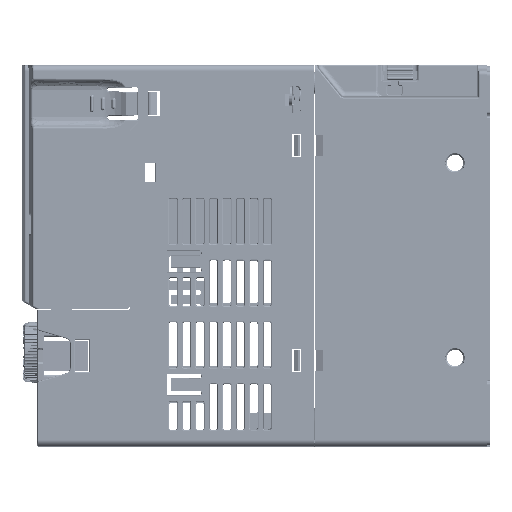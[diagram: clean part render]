
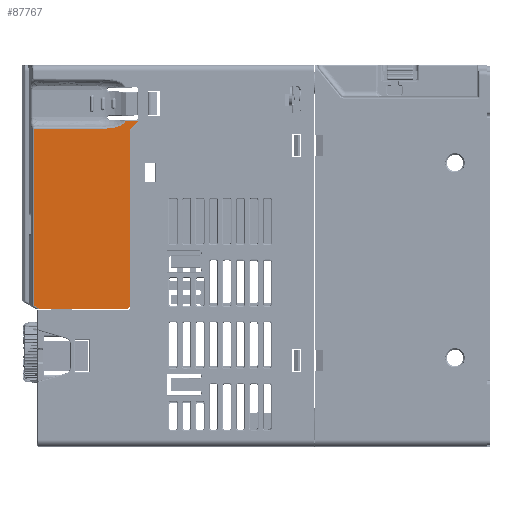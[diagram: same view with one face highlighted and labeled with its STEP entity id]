
A CAD part, left-side view. The second image highlights one B-rep face of the part: STEP entity #87767.
In plain terms, the highlighted planar face has unit normal (-1, 0, 0).
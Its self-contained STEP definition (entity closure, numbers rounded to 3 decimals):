
#75703=CARTESIAN_POINT('',(-36.,115.069,-18.601));
#75704=CARTESIAN_POINT('',(-36.,114.885,-18.716));
#75705=CARTESIAN_POINT('',(-36.,114.517,
-18.945));
#75706=CARTESIAN_POINT('',(-36.,113.967,
-19.284));
#75707=CARTESIAN_POINT('',(-36.001,113.406,
-19.642));
#75708=CARTESIAN_POINT('',(-35.998,113.056,
-19.835));
#75709=CARTESIAN_POINT('',(-35.998,112.857,
-19.932));
#75731=CARTESIAN_POINT('',(-36.,77.1,50.007));
#75732=DIRECTION('',(1.,0.,0.));
#75733=DIRECTION('',(0.,-1.,0.001));
#75734=AXIS2_PLACEMENT_3D('',#75731,#75732,#75733);
#75736=DIRECTION('',(0.,0.707,-0.707));
#75737=VECTOR('',#75736,3.828);
#75738=CARTESIAN_POINT('',(-36.,76.746,49.654));
#75739=LINE('',#75738,#75737);
#75740=CARTESIAN_POINT('',(-36.,79.1,46.593));
#75741=DIRECTION('',(-1.,0.,0.));
#75742=DIRECTION('',(0.,0.707,0.707));
#75743=AXIS2_PLACEMENT_3D('',#75740,#75741,#75742);
#75745=DIRECTION('',(0.,1.,-0.001));
#75746=VECTOR('',#75745,32.146);
#75747=CARTESIAN_POINT('',(-36.,80.711,
-19.902));
#75748=LINE('',#75747,#75746);
#75749=DIRECTION('',(0.,-1.,0.003));
#75750=VECTOR('',#75749,25.456);
#75751=CARTESIAN_POINT('',(-36.,115.069,
47.131));
#75752=LINE('',#75751,#75750);
#75775=DIRECTION('',(0.,-0.001,1.));
#75776=VECTOR('',#75775,0.163);
#75777=CARTESIAN_POINT('',(-36.,76.6,
50.007));
#75778=LINE('',#75777,#75776);
#79441=CARTESIAN_POINT('',(-36.,80.711,
-19.902));
#79442=CARTESIAN_POINT('',(-36.,80.585,
-19.902));
#79443=CARTESIAN_POINT('',(-36.,80.358,
-19.863));
#79444=CARTESIAN_POINT('',(-36.,80.045,
-19.707));
#79445=CARTESIAN_POINT('',(-36.,79.795,
-19.458));
#79446=CARTESIAN_POINT('',(-36.,79.636,
-19.141));
#79447=CARTESIAN_POINT('',(-36.,79.6,
-18.92));
#79448=CARTESIAN_POINT('',(-36.,79.6,
-18.803));
#79458=DIRECTION('',(0.,0.,1.));
#79459=VECTOR('',#79458,65.396);
#79460=CARTESIAN_POINT('',(-36.,79.6,
-18.803));
#79461=LINE('',#79460,#79459);
#80624=CARTESIAN_POINT('',(-36.,80.959,
50.171));
#80625=CARTESIAN_POINT('',(-36.,81.02,
50.056));
#80626=CARTESIAN_POINT('',(-36.,81.162,
49.824));
#80627=CARTESIAN_POINT('',(-36.,81.431,
49.482));
#80628=CARTESIAN_POINT('',(-36.,81.769,
49.142));
#80629=CARTESIAN_POINT('',(-36.,82.188,
48.806));
#80630=CARTESIAN_POINT('',(-36.,82.698,
48.483));
#80631=CARTESIAN_POINT('',(-36.,83.312,
48.178));
#80632=CARTESIAN_POINT('',(-36.,84.038,
47.902));
#80633=CARTESIAN_POINT('',(-36.,84.882,
47.664));
#80634=CARTESIAN_POINT('',(-36.,85.854,
47.471));
#80635=CARTESIAN_POINT('',(-36.,86.958,
47.328));
#80636=CARTESIAN_POINT('',(-36.,88.199,
47.237));
#80637=CARTESIAN_POINT('',(-36.,89.126,
47.212));
#80638=CARTESIAN_POINT('',(-36.,89.613,
47.211));
#80709=DIRECTION('',(0.,1.,0.));
#80710=VECTOR('',#80709,4.36);
#80711=CARTESIAN_POINT('',(-36.,76.6,
50.17));
#80712=LINE('',#80711,#80710);
#80734=DIRECTION('',(0.,0.,-1.));
#80735=VECTOR('',#80734,65.733);
#80736=CARTESIAN_POINT('',(-36.,115.069,
47.131));
#80737=LINE('',#80736,#80735);
#81907=CARTESIAN_POINT('',(-36.,80.711,
-19.902));
#81908=CARTESIAN_POINT('',(-35.998,112.857,
-19.932));
#81909=VERTEX_POINT('',#81907);
#81910=VERTEX_POINT('',#81908);
#82537=CARTESIAN_POINT('',(-36.,115.069,-18.601));
#82538=VERTEX_POINT('',#82537);
#82539=CARTESIAN_POINT('',(-36.,76.6,50.008));
#82540=CARTESIAN_POINT('',(-36.,76.746,49.654));
#82541=VERTEX_POINT('',#82539);
#82542=VERTEX_POINT('',#82540);
#82543=CARTESIAN_POINT('',(-36.,79.454,46.946));
#82544=VERTEX_POINT('',#82543);
#82545=CARTESIAN_POINT('',(-36.,79.6,46.593));
#82546=VERTEX_POINT('',#82545);
#82547=CARTESIAN_POINT('',(-36.,79.6,
-18.803));
#82548=VERTEX_POINT('',#82547);
#82549=CARTESIAN_POINT('',(-36.,115.069,
47.131));
#82550=VERTEX_POINT('',#82549);
#82551=CARTESIAN_POINT('',(-36.,89.613,
47.211));
#82552=VERTEX_POINT('',#82551);
#82553=VERTEX_POINT('',#80624);
#82554=CARTESIAN_POINT('',(-36.,76.6,
50.17));
#82555=VERTEX_POINT('',#82554);
#87737=CARTESIAN_POINT('',(-36.,115.736,-19.9));
#87738=DIRECTION('',(-1.,0.,0.));
#87739=DIRECTION('',(0.,-1.,0.));
#87740=AXIS2_PLACEMENT_3D('',#87737,#87738,#87739);
#87741=PLANE('',#87740);
#87743=ORIENTED_EDGE('',*,*,#87742,.T.);
#87745=ORIENTED_EDGE('',*,*,#87744,.T.);
#87747=ORIENTED_EDGE('',*,*,#87746,.T.);
#87749=ORIENTED_EDGE('',*,*,#87748,.F.);
#87751=ORIENTED_EDGE('',*,*,#87750,.F.);
#87753=ORIENTED_EDGE('',*,*,#87752,.T.);
#87754=ORIENTED_EDGE('',*,*,#87728,.F.);
#87756=ORIENTED_EDGE('',*,*,#87755,.F.);
#87758=ORIENTED_EDGE('',*,*,#87757,.T.);
#87760=ORIENTED_EDGE('',*,*,#87759,.F.);
#87762=ORIENTED_EDGE('',*,*,#87761,.F.);
#87764=ORIENTED_EDGE('',*,*,#87763,.F.);
#87765=EDGE_LOOP('',(#87743,#87745,#87747,#87749,#87751,#87753,#87754,#87756,
#87758,#87760,#87762,#87764));
#87766=FACE_OUTER_BOUND('',#87765,.F.);
#75710=B_SPLINE_CURVE_WITH_KNOTS('',3,(#75703,#75704,#75705,#75706,#75707,
#75708,#75709),.UNSPECIFIED.,.F.,.F.,(4,1,1,1,4),(0.,0.25,0.5,0.75,
1.),.UNSPECIFIED.);
#75735=CIRCLE('',#75734,0.5);
#75744=CIRCLE('',#75743,0.5);
#79449=B_SPLINE_CURVE_WITH_KNOTS('',3,(#79441,#79442,#79443,#79444,#79445,
#79446,#79447,#79448),.UNSPECIFIED.,.F.,.F.,(4,1,1,1,1,4),(0.,0.2,0.4,
0.6,0.8,1.),.UNSPECIFIED.);
#80639=B_SPLINE_CURVE_WITH_KNOTS('',3,(#80624,#80625,#80626,#80627,#80628,
#80629,#80630,#80631,#80632,#80633,#80634,#80635,#80636,#80637,#80638),
.UNSPECIFIED.,.F.,.F.,(4,1,1,1,1,1,1,1,1,1,1,1,4),(0.,0.083,
0.167,0.25,0.333,0.417,0.5,
0.583,0.667,0.75,0.833,0.917,
1.),.UNSPECIFIED.);
#87728=EDGE_CURVE('',#82538,#81910,#75710,.T.);
#87742=EDGE_CURVE('',#82541,#82542,#75735,.T.);
#87744=EDGE_CURVE('',#82542,#82544,#75739,.T.);
#87746=EDGE_CURVE('',#82544,#82546,#75744,.T.);
#87748=EDGE_CURVE('',#82548,#82546,#79461,.T.);
#87750=EDGE_CURVE('',#81909,#82548,#79449,.T.);
#87752=EDGE_CURVE('',#81909,#81910,#75748,.T.);
#87755=EDGE_CURVE('',#82550,#82538,#80737,.T.);
#87757=EDGE_CURVE('',#82550,#82552,#75752,.T.);
#87759=EDGE_CURVE('',#82553,#82552,#80639,.T.);
#87761=EDGE_CURVE('',#82555,#82553,#80712,.T.);
#87763=EDGE_CURVE('',#82541,#82555,#75778,.T.);
#87767=ADVANCED_FACE('',(#87766),#87741,.T.);
